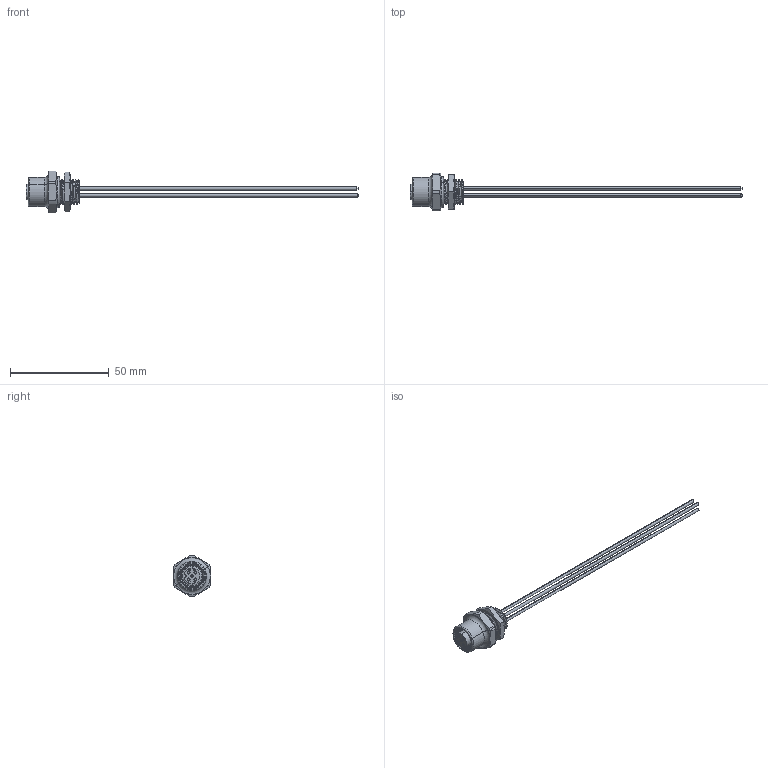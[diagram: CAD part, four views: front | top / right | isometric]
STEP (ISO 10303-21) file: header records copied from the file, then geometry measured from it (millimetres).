
FILE_DESCRIPTION (( 'STEP AP214' ), '1' );
FILE_NAME ('MDC-4FR-4-ZZ.STEP', '2011-02-04T13:33:54', ( ' ' ), ( '' ), 'SwSTEP 2.0', 'SolidWorks 2011', '' );
FILE_SCHEMA (( 'AUTOMOTIVE_DESIGN' ));
Length unit declared in the file: inch
Products named in the file (1): MDC-4FR-4-ZZ
Bounding box: 168.53 x 19.05 x 21.07 mm (x, y, z)
Volume: 5581.7 mm3; surface area: 6463.9 mm2
Topology: 3 solids, 3 shells, 261 faces, 644 edges, 419 vertices
Faces by surface type: cylinder 93, plane 86, cone 35, bspline 32, torus 15
Entity records: 16583 total; most frequent: CARTESIAN_POINT 7363, ORIENTED_EDGE 1288, DIRECTION 1130, EDGE_CURVE 644, AXIS2_PLACEMENT_3D 443, VERTEX_POINT 419, EDGE_LOOP 297, FACE_OUTER_BOUND 261
